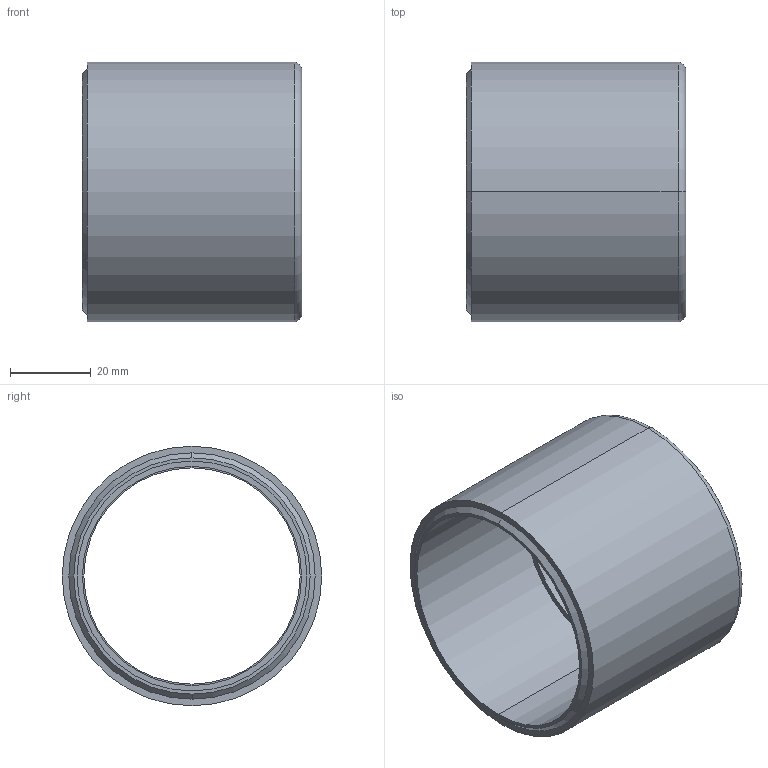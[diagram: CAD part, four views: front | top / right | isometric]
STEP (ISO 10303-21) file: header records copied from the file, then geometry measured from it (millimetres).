
FILE_DESCRIPTION (( 'STEP AP214' ), '1' );
FILE_NAME ('CR-INFV-14-15.STEP', '2020-12-10T17:00:31', ( '' ), ( '' ), 'SwSTEP 2.0', 'SolidWorks 2019', '' );
FILE_SCHEMA (( 'AUTOMOTIVE_DESIGN' ));
Length unit declared in the file: inch
Products named in the file (1): CR-INFV-14-15
Bounding box: 54.34 x 64.24 x 64.24 mm (x, y, z)
Volume: 41814.8 mm3; surface area: 22170.7 mm2
Topology: 1 solids, 1 shells, 20 faces, 40 edges, 26 vertices
Faces by surface type: cylinder 10, plane 6, cone 2, torus 2
Entity records: 840 total; most frequent: DIRECTION 110, CARTESIAN_POINT 87, ORIENTED_EDGE 80, AXIS2_PLACEMENT_3D 49, EDGE_CURVE 40, CIRCLE 28, EDGE_LOOP 26, VERTEX_POINT 26
